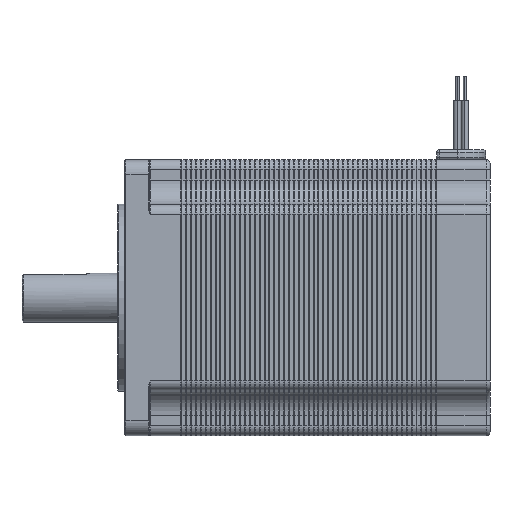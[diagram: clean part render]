
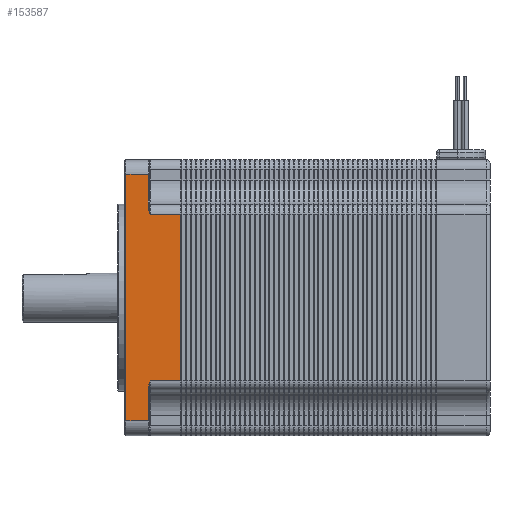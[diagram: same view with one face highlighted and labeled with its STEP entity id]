
A CAD part, left-side view. The second image highlights one B-rep face of the part: STEP entity #153587.
In plain terms, the highlighted planar face has unit normal (-1, 0, 0).
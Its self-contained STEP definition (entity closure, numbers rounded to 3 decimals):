
#666 = CARTESIAN_POINT ( 'NONE',  ( -28.15, 69.491, 17.403 ) ) ;
#1335 = CARTESIAN_POINT ( 'NONE',  ( -28.15, 69.395, -17.201 ) ) ;
#2209 = CARTESIAN_POINT ( 'NONE',  ( -28.15, 69.491, -17.403 ) ) ;
#3288 = VECTOR ( 'NONE', #50032, 1000. ) ;
#5608 = LINE ( 'NONE', #74315, #83107 ) ;
#12872 = VERTEX_POINT ( 'NONE', #93625 ) ;
#14915 = VERTEX_POINT ( 'NONE', #124828 ) ;
#18251 = VERTEX_POINT ( 'NONE', #25413 ) ;
#25028 = CARTESIAN_POINT ( 'NONE',  ( -28.15, 69.7, 18.04 ) ) ;
#25413 = CARTESIAN_POINT ( 'NONE',  ( -28.15, 74.3, -25.15 ) ) ;
#28443 = CARTESIAN_POINT ( 'NONE',  ( -28.15, 69.7, -18.265 ) ) ;
#29960 = LINE ( 'NONE', #32669, #148682 ) ;
#31530 = CARTESIAN_POINT ( 'NONE',  ( -28.15, 74.5, -17. ) ) ;
#32669 = CARTESIAN_POINT ( 'NONE',  ( -28.15, 69.5, -25.15 ) ) ;
#36057 = DIRECTION ( 'NONE',  ( 0., 1., 0. ) ) ;
#36197 = VECTOR ( 'NONE', #178070, 1000. ) ;
#38320 = VERTEX_POINT ( 'NONE', #48550 ) ;
#39464 = ORIENTED_EDGE ( 'NONE', *, *, #75178, .T. ) ;
#41843 = ORIENTED_EDGE ( 'NONE', *, *, #145184, .T. ) ;
#42996 = EDGE_CURVE ( 'NONE', #12872, #38320, #100182, .T. ) ;
#46881 = DIRECTION ( 'NONE',  ( 0., -1., 0. ) ) ;
#48550 = CARTESIAN_POINT ( 'NONE',  ( -28.15, 63.1, -17. ) ) ;
#50032 = DIRECTION ( 'NONE',  ( 0., 0., 1. ) ) ;
#50941 = CARTESIAN_POINT ( 'NONE',  ( -28.15, 69.7, -17. ) ) ;
#51494 = CARTESIAN_POINT ( 'NONE',  ( -28.15, 69.3, 17. ) ) ;
#51554 = DIRECTION ( 'NONE',  ( 0., 0., 1. ) ) ;
#51577 = DIRECTION ( 'NONE',  ( 0., 0., -1. ) ) ;
#53098 = CARTESIAN_POINT ( 'NONE',  ( -28.15, 69.3, 17. ) ) ;
#54136 = ORIENTED_EDGE ( 'NONE', *, *, #88712, .F. ) ;
#56013 = VECTOR ( 'NONE', #51554, 1000. ) ;
#56260 = DIRECTION ( 'NONE',  ( 0., 1., 0. ) ) ;
#57349 = CARTESIAN_POINT ( 'NONE',  ( -28.15, 69.3, -17. ) ) ;
#60000 = B_SPLINE_CURVE_WITH_KNOTS ( 'NONE', 3,
 ( #53098, #138946, #666, #148939, #25028, #166107 ),
 .UNSPECIFIED., .F., .F.,
 ( 4, 2, 4 ),
 ( 0., 0.001, 0.001 ),
 .UNSPECIFIED. ) ;
#60335 = ORIENTED_EDGE ( 'NONE', *, *, #160919, .T. ) ;
#62688 = VERTEX_POINT ( 'NONE', #178204 ) ;
#66243 = LINE ( 'NONE', #50941, #3288 ) ;
#66259 = VERTEX_POINT ( 'NONE', #97072 ) ;
#66477 = AXIS2_PLACEMENT_3D ( 'NONE', #175474, #178129, #51577 ) ;
#67745 = ORIENTED_EDGE ( 'NONE', *, *, #110039, .T. ) ;
#70043 = CARTESIAN_POINT ( 'NONE',  ( -28.15, 69.7, -18.04 ) ) ;
#72250 = VECTOR ( 'NONE', #46881, 1000. ) ;
#74315 = CARTESIAN_POINT ( 'NONE',  ( -28.15, 74.3, -25.15 ) ) ;
#75178 = EDGE_CURVE ( 'NONE', #105615, #14915, #148121, .T. ) ;
#77408 = CARTESIAN_POINT ( 'NONE',  ( -28.15, 63.1, 17. ) ) ;
#81817 = B_SPLINE_CURVE_WITH_KNOTS ( 'NONE', 3,
 ( #28443, #70043, #125087, #2209, #1335, #57349 ),
 .UNSPECIFIED., .F., .F.,
 ( 4, 2, 4 ),
 ( 0., 0.001, 0.001 ),
 .UNSPECIFIED. ) ;
#82133 = LINE ( 'NONE', #124590, #36197 ) ;
#82184 = FACE_OUTER_BOUND ( 'NONE', #116748, .T. ) ;
#83107 = VECTOR ( 'NONE', #98729, 1000. ) ;
#88712 = EDGE_CURVE ( 'NONE', #160278, #18251, #29960, .T. ) ;
#91376 = ORIENTED_EDGE ( 'NONE', *, *, #172829, .F. ) ;
#93625 = CARTESIAN_POINT ( 'NONE',  ( -28.15, 69.3, -17. ) ) ;
#97072 = CARTESIAN_POINT ( 'NONE',  ( -28.15, 69.7, 18.265 ) ) ;
#98729 = DIRECTION ( 'NONE',  ( 0., 0., -1. ) ) ;
#100182 = LINE ( 'NONE', #31530, #72250 ) ;
#100819 = CARTESIAN_POINT ( 'NONE',  ( -28.15, 69.7, 25.15 ) ) ;
#101232 = EDGE_CURVE ( 'NONE', #175381, #66259, #60000, .T. ) ;
#102390 = LINE ( 'NONE', #158519, #121732 ) ;
#103055 = CARTESIAN_POINT ( 'NONE',  ( -28.15, 69.7, -17. ) ) ;
#105615 = VERTEX_POINT ( 'NONE', #100819 ) ;
#110039 = EDGE_CURVE ( 'NONE', #62688, #12872, #81817, .T. ) ;
#110298 = ORIENTED_EDGE ( 'NONE', *, *, #42996, .T. ) ;
#112970 = ORIENTED_EDGE ( 'NONE', *, *, #101232, .T. ) ;
#116748 = EDGE_LOOP ( 'NONE', ( #39464, #41843, #54136, #60335, #67745, #110298, #160870, #91376, #112970, #142808 ) ) ;
#117047 = VERTEX_POINT ( 'NONE', #77408 ) ;
#121732 = VECTOR ( 'NONE', #131240, 1000. ) ;
#122834 = PLANE ( 'NONE',  #66477 ) ;
#124590 = CARTESIAN_POINT ( 'NONE',  ( -28.15, 63.1, -17. ) ) ;
#124828 = CARTESIAN_POINT ( 'NONE',  ( -28.15, 74.3, 25.15 ) ) ;
#125087 = CARTESIAN_POINT ( 'NONE',  ( -28.15, 69.642, -17.823 ) ) ;
#131013 = LINE ( 'NONE', #103055, #56013 ) ;
#131240 = DIRECTION ( 'NONE',  ( 0., -1., 0. ) ) ;
#136468 = EDGE_CURVE ( 'NONE', #66259, #105615, #66243, .T. ) ;
#138946 = CARTESIAN_POINT ( 'NONE',  ( -28.15, 69.395, 17.202 ) ) ;
#142808 = ORIENTED_EDGE ( 'NONE', *, *, #136468, .T. ) ;
#145184 = EDGE_CURVE ( 'NONE', #14915, #18251, #5608, .T. ) ;
#145303 = CARTESIAN_POINT ( 'NONE',  ( -28.15, 69.7, -25.15 ) ) ;
#145522 = VECTOR ( 'NONE', #36057, 1000. ) ;
#147260 = CARTESIAN_POINT ( 'NONE',  ( -28.15, 69.5, 25.15 ) ) ;
#148121 = LINE ( 'NONE', #147260, #145522 ) ;
#148682 = VECTOR ( 'NONE', #56260, 1000. ) ;
#148939 = CARTESIAN_POINT ( 'NONE',  ( -28.15, 69.642, 17.823 ) ) ;
#153587 = ADVANCED_FACE ( 'NONE', ( #82184 ), #122834, .F. ) ;
#158519 = CARTESIAN_POINT ( 'NONE',  ( -28.15, 74.5, 17. ) ) ;
#160278 = VERTEX_POINT ( 'NONE', #145303 ) ;
#160870 = ORIENTED_EDGE ( 'NONE', *, *, #167475, .T. ) ;
#160919 = EDGE_CURVE ( 'NONE', #160278, #62688, #131013, .T. ) ;
#166107 = CARTESIAN_POINT ( 'NONE',  ( -28.15, 69.7, 18.265 ) ) ;
#167475 = EDGE_CURVE ( 'NONE', #38320, #117047, #82133, .T. ) ;
#172829 = EDGE_CURVE ( 'NONE', #175381, #117047, #102390, .T. ) ;
#175381 = VERTEX_POINT ( 'NONE', #51494 ) ;
#175474 = CARTESIAN_POINT ( 'NONE',  ( -28.15, 74.5, -17. ) ) ;
#178070 = DIRECTION ( 'NONE',  ( 0., 0., 1. ) ) ;
#178129 = DIRECTION ( 'NONE',  ( 1., 0., 0. ) ) ;
#178204 = CARTESIAN_POINT ( 'NONE',  ( -28.15, 69.7, -18.265 ) ) ;
